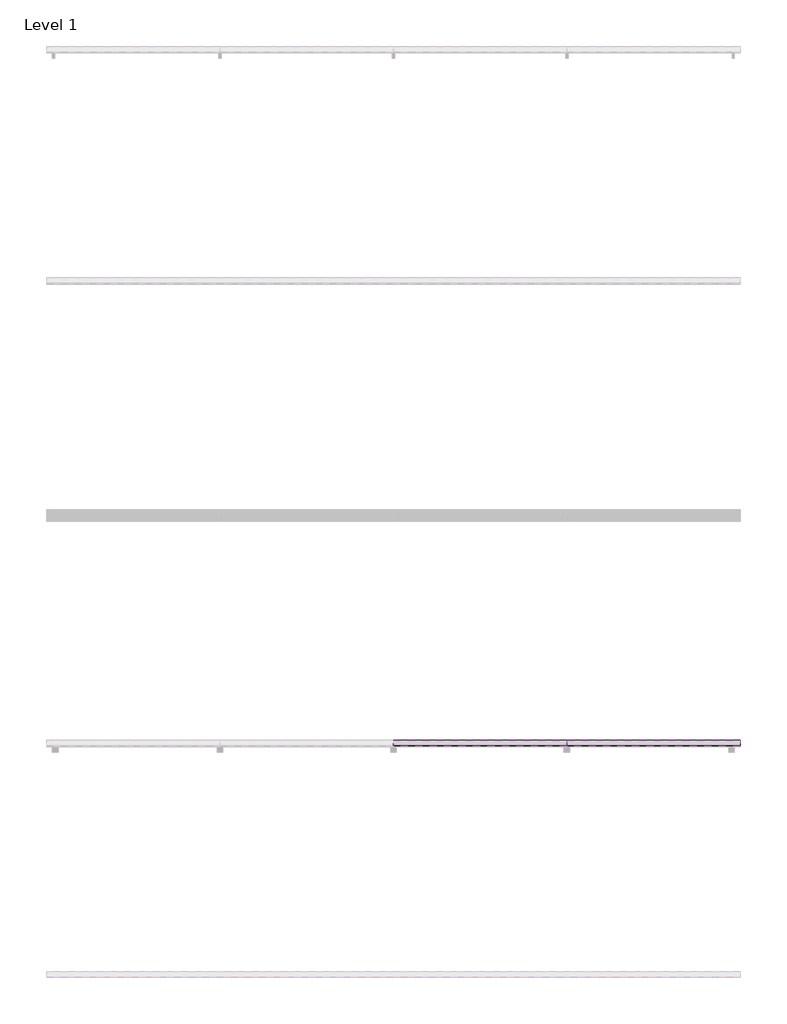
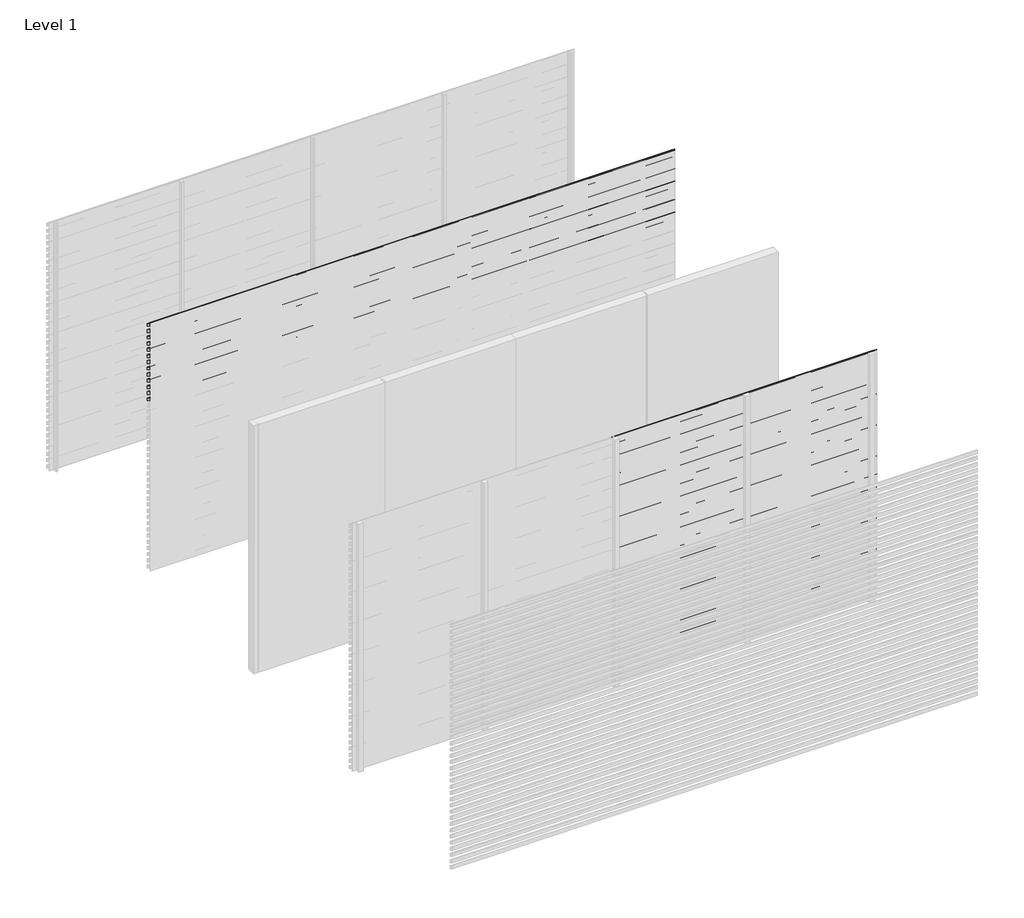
# One storey, part 5 of 9: 94 proxies.
"""IFC4 building model written with IfcOpenShell, lengths in millimetres."""

from ifc_helpers import new_model, si_unit, frame, origin, place, context, project, spatial, polyline, outline, extrude, element, save

model = new_model("IFC4")

# Units and contexts
model_context = context("Model", 3, world=origin())
ifc_project = project(units=[si_unit("LENGTHUNIT", "METRE", prefix="MILLI")], contexts=[model_context])

# Site, building, storey
site = spatial("IfcSite", under=ifc_project)
building = spatial("IfcBuilding", under=site)
storey = spatial("IfcBuildingStorey", under=building, Name="Level 1", Elevation=0.0)

# Proxies
placement = place(None, origin())
element("IfcBuildingElementProxy", 1, Name="Wall Sweeps", at=placement, inside=storey, context=model_context, shape_type="SweptSolid", body=[
    extrude(outline(polyline([(-7995.0, 3000.0), (-7995.0, 2991.2901632), (-7946.0, 2963.0), (-7946.0, 2928.0), (-7997.0, 2957.4448637), (-7997.0, 3000.0), (-7995.0, 3000.0)])), frame((0.0, 0.0, 0.0), z_axis=(1.0, 0.0, 0.0), x_axis=(0.0, 1.0, 0.0)), (0.0, 0.0, 1.0), 6000.0),
])
element("IfcBuildingElementProxy", 2, Name="Wall Sweeps", at=placement, inside=storey, context=model_context, shape_type="SweptSolid", body=[
    extrude(outline(polyline([(-7995.0, 2925.0), (-7995.0, 2916.2901632), (-7946.0, 2888.0), (-7946.0, 2853.0), (-7997.0, 2882.4448637), (-7997.0, 2925.0), (-7995.0, 2925.0)])), frame((0.0, 0.0, 0.0), z_axis=(1.0, 0.0, 0.0), x_axis=(0.0, 1.0, 0.0)), (0.0, 0.0, 1.0), 6000.0),
])
element("IfcBuildingElementProxy", 3, Name="Wall Sweeps", at=placement, inside=storey, context=model_context, shape_type="SweptSolid", body=[
    extrude(outline(polyline([(-7995.0, 2850.0), (-7995.0, 2841.2901632), (-7946.0, 2813.0), (-7946.0, 2778.0), (-7997.0, 2807.4448637), (-7997.0, 2850.0), (-7995.0, 2850.0)])), frame((0.0, 0.0, 0.0), z_axis=(1.0, 0.0, 0.0), x_axis=(0.0, 1.0, 0.0)), (0.0, 0.0, 1.0), 6000.0),
])
element("IfcBuildingElementProxy", 4, Name="Wall Sweeps", at=placement, inside=storey, context=model_context, shape_type="SweptSolid", body=[
    extrude(outline(polyline([(-7995.0, 2775.0), (-7995.0, 2766.2901632), (-7946.0, 2738.0), (-7946.0, 2703.0), (-7997.0, 2732.4448637), (-7997.0, 2775.0), (-7995.0, 2775.0)])), frame((0.0, 0.0, 0.0), z_axis=(1.0, 0.0, 0.0), x_axis=(0.0, 1.0, 0.0)), (0.0, 0.0, 1.0), 6000.0),
])
element("IfcBuildingElementProxy", 5, Name="Wall Sweeps", at=placement, inside=storey, context=model_context, shape_type="SweptSolid", body=[
    extrude(outline(polyline([(-7995.0, 2700.0), (-7995.0, 2691.2901632), (-7946.0, 2663.0), (-7946.0, 2628.0), (-7997.0, 2657.4448637), (-7997.0, 2700.0), (-7995.0, 2700.0)])), frame((0.0, 0.0, 0.0), z_axis=(1.0, 0.0, 0.0), x_axis=(0.0, 1.0, 0.0)), (0.0, 0.0, 1.0), 6000.0),
])
element("IfcBuildingElementProxy", 6, Name="Wall Sweeps", at=placement, inside=storey, context=model_context, shape_type="SweptSolid", body=[
    extrude(outline(polyline([(-7995.0, 2625.0), (-7995.0, 2616.2901632), (-7946.0, 2588.0), (-7946.0, 2553.0), (-7997.0, 2582.4448637), (-7997.0, 2625.0), (-7995.0, 2625.0)])), frame((0.0, 0.0, 0.0), z_axis=(1.0, 0.0, 0.0), x_axis=(0.0, 1.0, 0.0)), (0.0, 0.0, 1.0), 6000.0),
])
element("IfcBuildingElementProxy", 7, Name="Wall Sweeps", at=placement, inside=storey, context=model_context, shape_type="SweptSolid", body=[
    extrude(outline(polyline([(-7995.0, 2550.0), (-7995.0, 2541.2901632), (-7946.0, 2513.0), (-7946.0, 2478.0), (-7997.0, 2507.4448637), (-7997.0, 2550.0), (-7995.0, 2550.0)])), frame((0.0, 0.0, 0.0), z_axis=(1.0, 0.0, 0.0), x_axis=(0.0, 1.0, 0.0)), (0.0, 0.0, 1.0), 6000.0),
])
element("IfcBuildingElementProxy", 8, Name="Wall Sweeps", at=placement, inside=storey, context=model_context, shape_type="SweptSolid", body=[
    extrude(outline(polyline([(-7995.0, 2475.0), (-7995.0, 2466.2901632), (-7946.0, 2438.0), (-7946.0, 2403.0), (-7997.0, 2432.4448637), (-7997.0, 2475.0), (-7995.0, 2475.0)])), frame((0.0, 0.0, 0.0), z_axis=(1.0, 0.0, 0.0), x_axis=(0.0, 1.0, 0.0)), (0.0, 0.0, 1.0), 6000.0),
])
element("IfcBuildingElementProxy", 9, Name="Wall Sweeps", at=placement, inside=storey, context=model_context, shape_type="SweptSolid", body=[
    extrude(outline(polyline([(-7995.0, 2400.0), (-7995.0, 2391.2901632), (-7946.0, 2363.0), (-7946.0, 2328.0), (-7997.0, 2357.4448637), (-7997.0, 2400.0), (-7995.0, 2400.0)])), frame((0.0, 0.0, 0.0), z_axis=(1.0, 0.0, 0.0), x_axis=(0.0, 1.0, 0.0)), (0.0, 0.0, 1.0), 6000.0),
])
element("IfcBuildingElementProxy", 10, Name="Wall Sweeps", at=placement, inside=storey, context=model_context, shape_type="SweptSolid", body=[
    extrude(outline(polyline([(-7995.0, 2325.0), (-7995.0, 2316.2901632), (-7946.0, 2288.0), (-7946.0, 2253.0), (-7997.0, 2282.4448637), (-7997.0, 2325.0), (-7995.0, 2325.0)])), frame((0.0, 0.0, 0.0), z_axis=(1.0, 0.0, 0.0), x_axis=(0.0, 1.0, 0.0)), (0.0, 0.0, 1.0), 6000.0),
])
element("IfcBuildingElementProxy", 11, Name="Wall Sweeps", at=placement, inside=storey, context=model_context, shape_type="SweptSolid", body=[
    extrude(outline(polyline([(-7995.0, 2250.0), (-7995.0, 2241.2901632), (-7946.0, 2213.0), (-7946.0, 2178.0), (-7997.0, 2207.4448637), (-7997.0, 2250.0), (-7995.0, 2250.0)])), frame((0.0, 0.0, 0.0), z_axis=(1.0, 0.0, 0.0), x_axis=(0.0, 1.0, 0.0)), (0.0, 0.0, 1.0), 6000.0),
])
element("IfcBuildingElementProxy", 12, Name="Wall Sweeps", at=placement, inside=storey, context=model_context, shape_type="SweptSolid", body=[
    extrude(outline(polyline([(-7995.0, 2175.0), (-7995.0, 2166.2901632), (-7946.0, 2138.0), (-7946.0, 2103.0), (-7997.0, 2132.4448637), (-7997.0, 2175.0), (-7995.0, 2175.0)])), frame((0.0, 0.0, 0.0), z_axis=(1.0, 0.0, 0.0), x_axis=(0.0, 1.0, 0.0)), (0.0, 0.0, 1.0), 6000.0),
])
element("IfcBuildingElementProxy", 13, Name="Wall Sweeps", at=placement, inside=storey, context=model_context, shape_type="SweptSolid", body=[
    extrude(outline(polyline([(-7995.0, 2100.0), (-7995.0, 2091.2901632), (-7946.0, 2063.0), (-7946.0, 2028.0), (-7997.0, 2057.4448637), (-7997.0, 2100.0), (-7995.0, 2100.0)])), frame((0.0, 0.0, 0.0), z_axis=(1.0, 0.0, 0.0), x_axis=(0.0, 1.0, 0.0)), (0.0, 0.0, 1.0), 6000.0),
])
element("IfcBuildingElementProxy", 14, Name="Wall Sweeps", at=placement, inside=storey, context=model_context, shape_type="SweptSolid", body=[
    extrude(outline(polyline([(-11995.0, 75.0), (-11995.0, 66.2901632), (-11946.0, 38.0), (-11946.0, 3.0), (-11997.0, 32.4448637), (-11997.0, 75.0), (-11995.0, 75.0)])), frame((1500.0, 0.0, 0.0), z_axis=(1.0, 0.0, 0.0), x_axis=(0.0, 1.0, 0.0)), (0.0, 0.0, 1.0), 1500.0),
])
element("IfcBuildingElementProxy", 15, Name="Wall Sweeps", at=placement, inside=storey, context=model_context, shape_type="SweptSolid", body=[
    extrude(outline(polyline([(-11995.0, 3000.0), (-11995.0, 2991.2901632), (-11946.0, 2963.0), (-11946.0, 2928.0), (-11997.0, 2957.4448637), (-11997.0, 3000.0), (-11995.0, 3000.0)])), frame((3000.0, 0.0, 0.0), z_axis=(1.0, 0.0, 0.0), x_axis=(0.0, 1.0, 0.0)), (0.0, 0.0, 1.0), 1500.0),
])
element("IfcBuildingElementProxy", 16, Name="Wall Sweeps", at=placement, inside=storey, context=model_context, shape_type="SweptSolid", body=[
    extrude(outline(polyline([(-11995.0, 2925.0), (-11995.0, 2916.2901632), (-11946.0, 2888.0), (-11946.0, 2853.0), (-11997.0, 2882.4448637), (-11997.0, 2925.0), (-11995.0, 2925.0)])), frame((3000.0, 0.0, 0.0), z_axis=(1.0, 0.0, 0.0), x_axis=(0.0, 1.0, 0.0)), (0.0, 0.0, 1.0), 1500.0),
])
element("IfcBuildingElementProxy", 17, Name="Wall Sweeps", at=placement, inside=storey, context=model_context, shape_type="SweptSolid", body=[
    extrude(outline(polyline([(-11995.0, 2850.0), (-11995.0, 2841.2901632), (-11946.0, 2813.0), (-11946.0, 2778.0), (-11997.0, 2807.4448637), (-11997.0, 2850.0), (-11995.0, 2850.0)])), frame((3000.0, 0.0, 0.0), z_axis=(1.0, 0.0, 0.0), x_axis=(0.0, 1.0, 0.0)), (0.0, 0.0, 1.0), 1500.0),
])
element("IfcBuildingElementProxy", 18, Name="Wall Sweeps", at=placement, inside=storey, context=model_context, shape_type="SweptSolid", body=[
    extrude(outline(polyline([(-11995.0, 2775.0), (-11995.0, 2766.2901632), (-11946.0, 2738.0), (-11946.0, 2703.0), (-11997.0, 2732.4448637), (-11997.0, 2775.0), (-11995.0, 2775.0)])), frame((3000.0, 0.0, 0.0), z_axis=(1.0, 0.0, 0.0), x_axis=(0.0, 1.0, 0.0)), (0.0, 0.0, 1.0), 1500.0),
])
element("IfcBuildingElementProxy", 19, Name="Wall Sweeps", at=placement, inside=storey, context=model_context, shape_type="SweptSolid", body=[
    extrude(outline(polyline([(-11995.0, 2700.0), (-11995.0, 2691.2901632), (-11946.0, 2663.0), (-11946.0, 2628.0), (-11997.0, 2657.4448637), (-11997.0, 2700.0), (-11995.0, 2700.0)])), frame((3000.0, 0.0, 0.0), z_axis=(1.0, 0.0, 0.0), x_axis=(0.0, 1.0, 0.0)), (0.0, 0.0, 1.0), 1500.0),
])
element("IfcBuildingElementProxy", 20, Name="Wall Sweeps", at=placement, inside=storey, context=model_context, shape_type="SweptSolid", body=[
    extrude(outline(polyline([(-11995.0, 2625.0), (-11995.0, 2616.2901632), (-11946.0, 2588.0), (-11946.0, 2553.0), (-11997.0, 2582.4448637), (-11997.0, 2625.0), (-11995.0, 2625.0)])), frame((3000.0, 0.0, 0.0), z_axis=(1.0, 0.0, 0.0), x_axis=(0.0, 1.0, 0.0)), (0.0, 0.0, 1.0), 1500.0),
])
element("IfcBuildingElementProxy", 21, Name="Wall Sweeps", at=placement, inside=storey, context=model_context, shape_type="SweptSolid", body=[
    extrude(outline(polyline([(-11995.0, 2550.0), (-11995.0, 2541.2901632), (-11946.0, 2513.0), (-11946.0, 2478.0), (-11997.0, 2507.4448637), (-11997.0, 2550.0), (-11995.0, 2550.0)])), frame((3000.0, 0.0, 0.0), z_axis=(1.0, 0.0, 0.0), x_axis=(0.0, 1.0, 0.0)), (0.0, 0.0, 1.0), 1500.0),
])
element("IfcBuildingElementProxy", 22, Name="Wall Sweeps", at=placement, inside=storey, context=model_context, shape_type="SweptSolid", body=[
    extrude(outline(polyline([(-11995.0, 2475.0), (-11995.0, 2466.2901632), (-11946.0, 2438.0), (-11946.0, 2403.0), (-11997.0, 2432.4448637), (-11997.0, 2475.0), (-11995.0, 2475.0)])), frame((3000.0, 0.0, 0.0), z_axis=(1.0, 0.0, 0.0), x_axis=(0.0, 1.0, 0.0)), (0.0, 0.0, 1.0), 1500.0),
])
element("IfcBuildingElementProxy", 23, Name="Wall Sweeps", at=placement, inside=storey, context=model_context, shape_type="SweptSolid", body=[
    extrude(outline(polyline([(-11995.0, 2400.0), (-11995.0, 2391.2901632), (-11946.0, 2363.0), (-11946.0, 2328.0), (-11997.0, 2357.4448637), (-11997.0, 2400.0), (-11995.0, 2400.0)])), frame((3000.0, 0.0, 0.0), z_axis=(1.0, 0.0, 0.0), x_axis=(0.0, 1.0, 0.0)), (0.0, 0.0, 1.0), 1500.0),
])
element("IfcBuildingElementProxy", 24, Name="Wall Sweeps", at=placement, inside=storey, context=model_context, shape_type="SweptSolid", body=[
    extrude(outline(polyline([(-11995.0, 2325.0), (-11995.0, 2316.2901632), (-11946.0, 2288.0), (-11946.0, 2253.0), (-11997.0, 2282.4448637), (-11997.0, 2325.0), (-11995.0, 2325.0)])), frame((3000.0, 0.0, 0.0), z_axis=(1.0, 0.0, 0.0), x_axis=(0.0, 1.0, 0.0)), (0.0, 0.0, 1.0), 1500.0),
])
element("IfcBuildingElementProxy", 25, Name="Wall Sweeps", at=placement, inside=storey, context=model_context, shape_type="SweptSolid", body=[
    extrude(outline(polyline([(-11995.0, 2250.0), (-11995.0, 2241.2901632), (-11946.0, 2213.0), (-11946.0, 2178.0), (-11997.0, 2207.4448637), (-11997.0, 2250.0), (-11995.0, 2250.0)])), frame((3000.0, 0.0, 0.0), z_axis=(1.0, 0.0, 0.0), x_axis=(0.0, 1.0, 0.0)), (0.0, 0.0, 1.0), 1500.0),
])
element("IfcBuildingElementProxy", 26, Name="Wall Sweeps", at=placement, inside=storey, context=model_context, shape_type="SweptSolid", body=[
    extrude(outline(polyline([(-11995.0, 2175.0), (-11995.0, 2166.2901632), (-11946.0, 2138.0), (-11946.0, 2103.0), (-11997.0, 2132.4448637), (-11997.0, 2175.0), (-11995.0, 2175.0)])), frame((3000.0, 0.0, 0.0), z_axis=(1.0, 0.0, 0.0), x_axis=(0.0, 1.0, 0.0)), (0.0, 0.0, 1.0), 1500.0),
])
element("IfcBuildingElementProxy", 27, Name="Wall Sweeps", at=placement, inside=storey, context=model_context, shape_type="SweptSolid", body=[
    extrude(outline(polyline([(-11995.0, 2100.0), (-11995.0, 2091.2901632), (-11946.0, 2063.0), (-11946.0, 2028.0), (-11997.0, 2057.4448637), (-11997.0, 2100.0), (-11995.0, 2100.0)])), frame((3000.0, 0.0, 0.0), z_axis=(1.0, 0.0, 0.0), x_axis=(0.0, 1.0, 0.0)), (0.0, 0.0, 1.0), 1500.0),
])
element("IfcBuildingElementProxy", 28, Name="Wall Sweeps", at=placement, inside=storey, context=model_context, shape_type="SweptSolid", body=[
    extrude(outline(polyline([(-11995.0, 2025.0), (-11995.0, 2016.2901632), (-11946.0, 1988.0), (-11946.0, 1953.0), (-11997.0, 1982.4448637), (-11997.0, 2025.0), (-11995.0, 2025.0)])), frame((3000.0, 0.0, 0.0), z_axis=(1.0, 0.0, 0.0), x_axis=(0.0, 1.0, 0.0)), (0.0, 0.0, 1.0), 1500.0),
])
element("IfcBuildingElementProxy", 29, Name="Wall Sweeps", at=placement, inside=storey, context=model_context, shape_type="SweptSolid", body=[
    extrude(outline(polyline([(-11995.0, 1950.0), (-11995.0, 1941.2901632), (-11946.0, 1913.0), (-11946.0, 1878.0), (-11997.0, 1907.4448637), (-11997.0, 1950.0), (-11995.0, 1950.0)])), frame((3000.0, 0.0, 0.0), z_axis=(1.0, 0.0, 0.0), x_axis=(0.0, 1.0, 0.0)), (0.0, 0.0, 1.0), 1500.0),
])
element("IfcBuildingElementProxy", 30, Name="Wall Sweeps", at=placement, inside=storey, context=model_context, shape_type="SweptSolid", body=[
    extrude(outline(polyline([(-11995.0, 1875.0), (-11995.0, 1866.2901632), (-11946.0, 1838.0), (-11946.0, 1803.0), (-11997.0, 1832.4448637), (-11997.0, 1875.0), (-11995.0, 1875.0)])), frame((3000.0, 0.0, 0.0), z_axis=(1.0, 0.0, 0.0), x_axis=(0.0, 1.0, 0.0)), (0.0, 0.0, 1.0), 1500.0),
])
element("IfcBuildingElementProxy", 31, Name="Wall Sweeps", at=placement, inside=storey, context=model_context, shape_type="SweptSolid", body=[
    extrude(outline(polyline([(-11995.0, 1800.0), (-11995.0, 1791.2901632), (-11946.0, 1763.0), (-11946.0, 1728.0), (-11997.0, 1757.4448637), (-11997.0, 1800.0), (-11995.0, 1800.0)])), frame((3000.0, 0.0, 0.0), z_axis=(1.0, 0.0, 0.0), x_axis=(0.0, 1.0, 0.0)), (0.0, 0.0, 1.0), 1500.0),
])
element("IfcBuildingElementProxy", 32, Name="Wall Sweeps", at=placement, inside=storey, context=model_context, shape_type="SweptSolid", body=[
    extrude(outline(polyline([(-11995.0, 1725.0), (-11995.0, 1716.2901632), (-11946.0, 1688.0), (-11946.0, 1653.0), (-11997.0, 1682.4448637), (-11997.0, 1725.0), (-11995.0, 1725.0)])), frame((3000.0, 0.0, 0.0), z_axis=(1.0, 0.0, 0.0), x_axis=(0.0, 1.0, 0.0)), (0.0, 0.0, 1.0), 1500.0),
])
element("IfcBuildingElementProxy", 33, Name="Wall Sweeps", at=placement, inside=storey, context=model_context, shape_type="SweptSolid", body=[
    extrude(outline(polyline([(-11995.0, 1650.0), (-11995.0, 1641.2901632), (-11946.0, 1613.0), (-11946.0, 1578.0), (-11997.0, 1607.4448637), (-11997.0, 1650.0), (-11995.0, 1650.0)])), frame((3000.0, 0.0, 0.0), z_axis=(1.0, 0.0, 0.0), x_axis=(0.0, 1.0, 0.0)), (0.0, 0.0, 1.0), 1500.0),
])
element("IfcBuildingElementProxy", 34, Name="Wall Sweeps", at=placement, inside=storey, context=model_context, shape_type="SweptSolid", body=[
    extrude(outline(polyline([(-11995.0, 1575.0), (-11995.0, 1566.2901632), (-11946.0, 1538.0), (-11946.0, 1503.0), (-11997.0, 1532.4448637), (-11997.0, 1575.0), (-11995.0, 1575.0)])), frame((3000.0, 0.0, 0.0), z_axis=(1.0, 0.0, 0.0), x_axis=(0.0, 1.0, 0.0)), (0.0, 0.0, 1.0), 1500.0),
])
element("IfcBuildingElementProxy", 35, Name="Wall Sweeps", at=placement, inside=storey, context=model_context, shape_type="SweptSolid", body=[
    extrude(outline(polyline([(-11995.0, 1500.0), (-11995.0, 1491.2901632), (-11946.0, 1463.0), (-11946.0, 1428.0), (-11997.0, 1457.4448637), (-11997.0, 1500.0), (-11995.0, 1500.0)])), frame((3000.0, 0.0, 0.0), z_axis=(1.0, 0.0, 0.0), x_axis=(0.0, 1.0, 0.0)), (0.0, 0.0, 1.0), 1500.0),
])
element("IfcBuildingElementProxy", 36, Name="Wall Sweeps", at=placement, inside=storey, context=model_context, shape_type="SweptSolid", body=[
    extrude(outline(polyline([(-11995.0, 1425.0), (-11995.0, 1416.2901632), (-11946.0, 1388.0), (-11946.0, 1353.0), (-11997.0, 1382.4448637), (-11997.0, 1425.0), (-11995.0, 1425.0)])), frame((3000.0, 0.0, 0.0), z_axis=(1.0, 0.0, 0.0), x_axis=(0.0, 1.0, 0.0)), (0.0, 0.0, 1.0), 1500.0),
])
element("IfcBuildingElementProxy", 37, Name="Wall Sweeps", at=placement, inside=storey, context=model_context, shape_type="SweptSolid", body=[
    extrude(outline(polyline([(-11995.0, 1350.0), (-11995.0, 1341.2901632), (-11946.0, 1313.0), (-11946.0, 1278.0), (-11997.0, 1307.4448637), (-11997.0, 1350.0), (-11995.0, 1350.0)])), frame((3000.0, 0.0, 0.0), z_axis=(1.0, 0.0, 0.0), x_axis=(0.0, 1.0, 0.0)), (0.0, 0.0, 1.0), 1500.0),
])
element("IfcBuildingElementProxy", 38, Name="Wall Sweeps", at=placement, inside=storey, context=model_context, shape_type="SweptSolid", body=[
    extrude(outline(polyline([(-11995.0, 1275.0), (-11995.0, 1266.2901632), (-11946.0, 1238.0), (-11946.0, 1203.0), (-11997.0, 1232.4448637), (-11997.0, 1275.0), (-11995.0, 1275.0)])), frame((3000.0, 0.0, 0.0), z_axis=(1.0, 0.0, 0.0), x_axis=(0.0, 1.0, 0.0)), (0.0, 0.0, 1.0), 1500.0),
])
element("IfcBuildingElementProxy", 39, Name="Wall Sweeps", at=placement, inside=storey, context=model_context, shape_type="SweptSolid", body=[
    extrude(outline(polyline([(-11995.0, 1200.0), (-11995.0, 1191.2901632), (-11946.0, 1163.0), (-11946.0, 1128.0), (-11997.0, 1157.4448637), (-11997.0, 1200.0), (-11995.0, 1200.0)])), frame((3000.0, 0.0, 0.0), z_axis=(1.0, 0.0, 0.0), x_axis=(0.0, 1.0, 0.0)), (0.0, 0.0, 1.0), 1500.0),
])
element("IfcBuildingElementProxy", 40, Name="Wall Sweeps", at=placement, inside=storey, context=model_context, shape_type="SweptSolid", body=[
    extrude(outline(polyline([(-11995.0, 1125.0), (-11995.0, 1116.2901632), (-11946.0, 1088.0), (-11946.0, 1053.0), (-11997.0, 1082.4448637), (-11997.0, 1125.0), (-11995.0, 1125.0)])), frame((3000.0, 0.0, 0.0), z_axis=(1.0, 0.0, 0.0), x_axis=(0.0, 1.0, 0.0)), (0.0, 0.0, 1.0), 1500.0),
])
element("IfcBuildingElementProxy", 41, Name="Wall Sweeps", at=placement, inside=storey, context=model_context, shape_type="SweptSolid", body=[
    extrude(outline(polyline([(-11995.0, 1050.0), (-11995.0, 1041.2901632), (-11946.0, 1013.0), (-11946.0, 978.0), (-11997.0, 1007.4448637), (-11997.0, 1050.0), (-11995.0, 1050.0)])), frame((3000.0, 0.0, 0.0), z_axis=(1.0, 0.0, 0.0), x_axis=(0.0, 1.0, 0.0)), (0.0, 0.0, 1.0), 1500.0),
])
element("IfcBuildingElementProxy", 42, Name="Wall Sweeps", at=placement, inside=storey, context=model_context, shape_type="SweptSolid", body=[
    extrude(outline(polyline([(-11995.0, 975.0), (-11995.0, 966.2901632), (-11946.0, 938.0), (-11946.0, 903.0), (-11997.0, 932.4448637), (-11997.0, 975.0), (-11995.0, 975.0)])), frame((3000.0, 0.0, 0.0), z_axis=(1.0, 0.0, 0.0), x_axis=(0.0, 1.0, 0.0)), (0.0, 0.0, 1.0), 1500.0),
])
element("IfcBuildingElementProxy", 43, Name="Wall Sweeps", at=placement, inside=storey, context=model_context, shape_type="SweptSolid", body=[
    extrude(outline(polyline([(-11995.0, 900.0), (-11995.0, 891.2901632), (-11946.0, 863.0), (-11946.0, 828.0), (-11997.0, 857.4448637), (-11997.0, 900.0), (-11995.0, 900.0)])), frame((3000.0, 0.0, 0.0), z_axis=(1.0, 0.0, 0.0), x_axis=(0.0, 1.0, 0.0)), (0.0, 0.0, 1.0), 1500.0),
])
element("IfcBuildingElementProxy", 44, Name="Wall Sweeps", at=placement, inside=storey, context=model_context, shape_type="SweptSolid", body=[
    extrude(outline(polyline([(-11995.0, 825.0), (-11995.0, 816.2901632), (-11946.0, 788.0), (-11946.0, 753.0), (-11997.0, 782.4448637), (-11997.0, 825.0), (-11995.0, 825.0)])), frame((3000.0, 0.0, 0.0), z_axis=(1.0, 0.0, 0.0), x_axis=(0.0, 1.0, 0.0)), (0.0, 0.0, 1.0), 1500.0),
])
element("IfcBuildingElementProxy", 45, Name="Wall Sweeps", at=placement, inside=storey, context=model_context, shape_type="SweptSolid", body=[
    extrude(outline(polyline([(-11995.0, 750.0), (-11995.0, 741.2901632), (-11946.0, 713.0), (-11946.0, 678.0), (-11997.0, 707.4448637), (-11997.0, 750.0), (-11995.0, 750.0)])), frame((3000.0, 0.0, 0.0), z_axis=(1.0, 0.0, 0.0), x_axis=(0.0, 1.0, 0.0)), (0.0, 0.0, 1.0), 1500.0),
])
element("IfcBuildingElementProxy", 46, Name="Wall Sweeps", at=placement, inside=storey, context=model_context, shape_type="SweptSolid", body=[
    extrude(outline(polyline([(-11995.0, 675.0), (-11995.0, 666.2901632), (-11946.0, 638.0), (-11946.0, 603.0), (-11997.0, 632.4448637), (-11997.0, 675.0), (-11995.0, 675.0)])), frame((3000.0, 0.0, 0.0), z_axis=(1.0, 0.0, 0.0), x_axis=(0.0, 1.0, 0.0)), (0.0, 0.0, 1.0), 1500.0),
])
element("IfcBuildingElementProxy", 47, Name="Wall Sweeps", at=placement, inside=storey, context=model_context, shape_type="SweptSolid", body=[
    extrude(outline(polyline([(-11995.0, 600.0), (-11995.0, 591.2901632), (-11946.0, 563.0), (-11946.0, 528.0), (-11997.0, 557.4448637), (-11997.0, 600.0), (-11995.0, 600.0)])), frame((3000.0, 0.0, 0.0), z_axis=(1.0, 0.0, 0.0), x_axis=(0.0, 1.0, 0.0)), (0.0, 0.0, 1.0), 1500.0),
])
element("IfcBuildingElementProxy", 48, Name="Wall Sweeps", at=placement, inside=storey, context=model_context, shape_type="SweptSolid", body=[
    extrude(outline(polyline([(-11995.0, 525.0), (-11995.0, 516.2901632), (-11946.0, 488.0), (-11946.0, 453.0), (-11997.0, 482.4448637), (-11997.0, 525.0), (-11995.0, 525.0)])), frame((3000.0, 0.0, 0.0), z_axis=(1.0, 0.0, 0.0), x_axis=(0.0, 1.0, 0.0)), (0.0, 0.0, 1.0), 1500.0),
])
element("IfcBuildingElementProxy", 49, Name="Wall Sweeps", at=placement, inside=storey, context=model_context, shape_type="SweptSolid", body=[
    extrude(outline(polyline([(-11995.0, 450.0), (-11995.0, 441.2901632), (-11946.0, 413.0), (-11946.0, 378.0), (-11997.0, 407.4448637), (-11997.0, 450.0), (-11995.0, 450.0)])), frame((3000.0, 0.0, 0.0), z_axis=(1.0, 0.0, 0.0), x_axis=(0.0, 1.0, 0.0)), (0.0, 0.0, 1.0), 1500.0),
])
element("IfcBuildingElementProxy", 50, Name="Wall Sweeps", at=placement, inside=storey, context=model_context, shape_type="SweptSolid", body=[
    extrude(outline(polyline([(-11995.0, 375.0), (-11995.0, 366.2901632), (-11946.0, 338.0), (-11946.0, 303.0), (-11997.0, 332.4448637), (-11997.0, 375.0), (-11995.0, 375.0)])), frame((3000.0, 0.0, 0.0), z_axis=(1.0, 0.0, 0.0), x_axis=(0.0, 1.0, 0.0)), (0.0, 0.0, 1.0), 1500.0),
])
element("IfcBuildingElementProxy", 51, Name="Wall Sweeps", at=placement, inside=storey, context=model_context, shape_type="SweptSolid", body=[
    extrude(outline(polyline([(-11995.0, 300.0), (-11995.0, 291.2901632), (-11946.0, 263.0), (-11946.0, 228.0), (-11997.0, 257.4448637), (-11997.0, 300.0), (-11995.0, 300.0)])), frame((3000.0, 0.0, 0.0), z_axis=(1.0, 0.0, 0.0), x_axis=(0.0, 1.0, 0.0)), (0.0, 0.0, 1.0), 1500.0),
])
element("IfcBuildingElementProxy", 52, Name="Wall Sweeps", at=placement, inside=storey, context=model_context, shape_type="SweptSolid", body=[
    extrude(outline(polyline([(-11995.0, 225.0), (-11995.0, 216.2901632), (-11946.0, 188.0), (-11946.0, 153.0), (-11997.0, 182.4448637), (-11997.0, 225.0), (-11995.0, 225.0)])), frame((3000.0, 0.0, 0.0), z_axis=(1.0, 0.0, 0.0), x_axis=(0.0, 1.0, 0.0)), (0.0, 0.0, 1.0), 1500.0),
])
element("IfcBuildingElementProxy", 53, Name="Wall Sweeps", at=placement, inside=storey, context=model_context, shape_type="SweptSolid", body=[
    extrude(outline(polyline([(-11995.0, 150.0), (-11995.0, 141.2901632), (-11946.0, 113.0), (-11946.0, 78.0), (-11997.0, 107.4448637), (-11997.0, 150.0), (-11995.0, 150.0)])), frame((3000.0, 0.0, 0.0), z_axis=(1.0, 0.0, 0.0), x_axis=(0.0, 1.0, 0.0)), (0.0, 0.0, 1.0), 1500.0),
])
element("IfcBuildingElementProxy", 54, Name="Wall Sweeps", at=placement, inside=storey, context=model_context, shape_type="SweptSolid", body=[
    extrude(outline(polyline([(-11995.0, 75.0), (-11995.0, 66.2901632), (-11946.0, 38.0), (-11946.0, 3.0), (-11997.0, 32.4448637), (-11997.0, 75.0), (-11995.0, 75.0)])), frame((3000.0, 0.0, 0.0), z_axis=(1.0, 0.0, 0.0), x_axis=(0.0, 1.0, 0.0)), (0.0, 0.0, 1.0), 1500.0),
])
element("IfcBuildingElementProxy", 55, Name="Wall Sweeps", at=placement, inside=storey, context=model_context, shape_type="SweptSolid", body=[
    extrude(outline(polyline([(-11995.0, 3000.0), (-11995.0, 2991.2901632), (-11946.0, 2963.0), (-11946.0, 2928.0), (-11997.0, 2957.4448637), (-11997.0, 3000.0), (-11995.0, 3000.0)])), frame((4500.0, 0.0, 0.0), z_axis=(1.0, 0.0, 0.0), x_axis=(0.0, 1.0, 0.0)), (0.0, 0.0, 1.0), 1500.0),
])
element("IfcBuildingElementProxy", 56, Name="Wall Sweeps", at=placement, inside=storey, context=model_context, shape_type="SweptSolid", body=[
    extrude(outline(polyline([(-11995.0, 2925.0), (-11995.0, 2916.2901632), (-11946.0, 2888.0), (-11946.0, 2853.0), (-11997.0, 2882.4448637), (-11997.0, 2925.0), (-11995.0, 2925.0)])), frame((4500.0, 0.0, 0.0), z_axis=(1.0, 0.0, 0.0), x_axis=(0.0, 1.0, 0.0)), (0.0, 0.0, 1.0), 1500.0),
])
element("IfcBuildingElementProxy", 57, Name="Wall Sweeps", at=placement, inside=storey, context=model_context, shape_type="SweptSolid", body=[
    extrude(outline(polyline([(-11995.0, 2850.0), (-11995.0, 2841.2901632), (-11946.0, 2813.0), (-11946.0, 2778.0), (-11997.0, 2807.4448637), (-11997.0, 2850.0), (-11995.0, 2850.0)])), frame((4500.0, 0.0, 0.0), z_axis=(1.0, 0.0, 0.0), x_axis=(0.0, 1.0, 0.0)), (0.0, 0.0, 1.0), 1500.0),
])
element("IfcBuildingElementProxy", 58, Name="Wall Sweeps", at=placement, inside=storey, context=model_context, shape_type="SweptSolid", body=[
    extrude(outline(polyline([(-11995.0, 2775.0), (-11995.0, 2766.2901632), (-11946.0, 2738.0), (-11946.0, 2703.0), (-11997.0, 2732.4448637), (-11997.0, 2775.0), (-11995.0, 2775.0)])), frame((4500.0, 0.0, 0.0), z_axis=(1.0, 0.0, 0.0), x_axis=(0.0, 1.0, 0.0)), (0.0, 0.0, 1.0), 1500.0),
])
element("IfcBuildingElementProxy", 59, Name="Wall Sweeps", at=placement, inside=storey, context=model_context, shape_type="SweptSolid", body=[
    extrude(outline(polyline([(-11995.0, 2700.0), (-11995.0, 2691.2901632), (-11946.0, 2663.0), (-11946.0, 2628.0), (-11997.0, 2657.4448637), (-11997.0, 2700.0), (-11995.0, 2700.0)])), frame((4500.0, 0.0, 0.0), z_axis=(1.0, 0.0, 0.0), x_axis=(0.0, 1.0, 0.0)), (0.0, 0.0, 1.0), 1500.0),
])
element("IfcBuildingElementProxy", 60, Name="Wall Sweeps", at=placement, inside=storey, context=model_context, shape_type="SweptSolid", body=[
    extrude(outline(polyline([(-11995.0, 2625.0), (-11995.0, 2616.2901632), (-11946.0, 2588.0), (-11946.0, 2553.0), (-11997.0, 2582.4448637), (-11997.0, 2625.0), (-11995.0, 2625.0)])), frame((4500.0, 0.0, 0.0), z_axis=(1.0, 0.0, 0.0), x_axis=(0.0, 1.0, 0.0)), (0.0, 0.0, 1.0), 1500.0),
])
element("IfcBuildingElementProxy", 61, Name="Wall Sweeps", at=placement, inside=storey, context=model_context, shape_type="SweptSolid", body=[
    extrude(outline(polyline([(-11995.0, 2550.0), (-11995.0, 2541.2901632), (-11946.0, 2513.0), (-11946.0, 2478.0), (-11997.0, 2507.4448637), (-11997.0, 2550.0), (-11995.0, 2550.0)])), frame((4500.0, 0.0, 0.0), z_axis=(1.0, 0.0, 0.0), x_axis=(0.0, 1.0, 0.0)), (0.0, 0.0, 1.0), 1500.0),
])
element("IfcBuildingElementProxy", 62, Name="Wall Sweeps", at=placement, inside=storey, context=model_context, shape_type="SweptSolid", body=[
    extrude(outline(polyline([(-11995.0, 2475.0), (-11995.0, 2466.2901632), (-11946.0, 2438.0), (-11946.0, 2403.0), (-11997.0, 2432.4448637), (-11997.0, 2475.0), (-11995.0, 2475.0)])), frame((4500.0, 0.0, 0.0), z_axis=(1.0, 0.0, 0.0), x_axis=(0.0, 1.0, 0.0)), (0.0, 0.0, 1.0), 1500.0),
])
element("IfcBuildingElementProxy", 63, Name="Wall Sweeps", at=placement, inside=storey, context=model_context, shape_type="SweptSolid", body=[
    extrude(outline(polyline([(-11995.0, 2400.0), (-11995.0, 2391.2901632), (-11946.0, 2363.0), (-11946.0, 2328.0), (-11997.0, 2357.4448637), (-11997.0, 2400.0), (-11995.0, 2400.0)])), frame((4500.0, 0.0, 0.0), z_axis=(1.0, 0.0, 0.0), x_axis=(0.0, 1.0, 0.0)), (0.0, 0.0, 1.0), 1500.0),
])
element("IfcBuildingElementProxy", 64, Name="Wall Sweeps", at=placement, inside=storey, context=model_context, shape_type="SweptSolid", body=[
    extrude(outline(polyline([(-11995.0, 2325.0), (-11995.0, 2316.2901632), (-11946.0, 2288.0), (-11946.0, 2253.0), (-11997.0, 2282.4448637), (-11997.0, 2325.0), (-11995.0, 2325.0)])), frame((4500.0, 0.0, 0.0), z_axis=(1.0, 0.0, 0.0), x_axis=(0.0, 1.0, 0.0)), (0.0, 0.0, 1.0), 1500.0),
])
element("IfcBuildingElementProxy", 65, Name="Wall Sweeps", at=placement, inside=storey, context=model_context, shape_type="SweptSolid", body=[
    extrude(outline(polyline([(-11995.0, 2250.0), (-11995.0, 2241.2901632), (-11946.0, 2213.0), (-11946.0, 2178.0), (-11997.0, 2207.4448637), (-11997.0, 2250.0), (-11995.0, 2250.0)])), frame((4500.0, 0.0, 0.0), z_axis=(1.0, 0.0, 0.0), x_axis=(0.0, 1.0, 0.0)), (0.0, 0.0, 1.0), 1500.0),
])
element("IfcBuildingElementProxy", 66, Name="Wall Sweeps", at=placement, inside=storey, context=model_context, shape_type="SweptSolid", body=[
    extrude(outline(polyline([(-11995.0, 2175.0), (-11995.0, 2166.2901632), (-11946.0, 2138.0), (-11946.0, 2103.0), (-11997.0, 2132.4448637), (-11997.0, 2175.0), (-11995.0, 2175.0)])), frame((4500.0, 0.0, 0.0), z_axis=(1.0, 0.0, 0.0), x_axis=(0.0, 1.0, 0.0)), (0.0, 0.0, 1.0), 1500.0),
])
element("IfcBuildingElementProxy", 67, Name="Wall Sweeps", at=placement, inside=storey, context=model_context, shape_type="SweptSolid", body=[
    extrude(outline(polyline([(-11995.0, 2100.0), (-11995.0, 2091.2901632), (-11946.0, 2063.0), (-11946.0, 2028.0), (-11997.0, 2057.4448637), (-11997.0, 2100.0), (-11995.0, 2100.0)])), frame((4500.0, 0.0, 0.0), z_axis=(1.0, 0.0, 0.0), x_axis=(0.0, 1.0, 0.0)), (0.0, 0.0, 1.0), 1500.0),
])
element("IfcBuildingElementProxy", 68, Name="Wall Sweeps", at=placement, inside=storey, context=model_context, shape_type="SweptSolid", body=[
    extrude(outline(polyline([(-11995.0, 2025.0), (-11995.0, 2016.2901632), (-11946.0, 1988.0), (-11946.0, 1953.0), (-11997.0, 1982.4448637), (-11997.0, 2025.0), (-11995.0, 2025.0)])), frame((4500.0, 0.0, 0.0), z_axis=(1.0, 0.0, 0.0), x_axis=(0.0, 1.0, 0.0)), (0.0, 0.0, 1.0), 1500.0),
])
element("IfcBuildingElementProxy", 69, Name="Wall Sweeps", at=placement, inside=storey, context=model_context, shape_type="SweptSolid", body=[
    extrude(outline(polyline([(-11995.0, 1950.0), (-11995.0, 1941.2901632), (-11946.0, 1913.0), (-11946.0, 1878.0), (-11997.0, 1907.4448637), (-11997.0, 1950.0), (-11995.0, 1950.0)])), frame((4500.0, 0.0, 0.0), z_axis=(1.0, 0.0, 0.0), x_axis=(0.0, 1.0, 0.0)), (0.0, 0.0, 1.0), 1500.0),
])
element("IfcBuildingElementProxy", 70, Name="Wall Sweeps", at=placement, inside=storey, context=model_context, shape_type="SweptSolid", body=[
    extrude(outline(polyline([(-11995.0, 1875.0), (-11995.0, 1866.2901632), (-11946.0, 1838.0), (-11946.0, 1803.0), (-11997.0, 1832.4448637), (-11997.0, 1875.0), (-11995.0, 1875.0)])), frame((4500.0, 0.0, 0.0), z_axis=(1.0, 0.0, 0.0), x_axis=(0.0, 1.0, 0.0)), (0.0, 0.0, 1.0), 1500.0),
])
element("IfcBuildingElementProxy", 71, Name="Wall Sweeps", at=placement, inside=storey, context=model_context, shape_type="SweptSolid", body=[
    extrude(outline(polyline([(-11995.0, 1800.0), (-11995.0, 1791.2901632), (-11946.0, 1763.0), (-11946.0, 1728.0), (-11997.0, 1757.4448637), (-11997.0, 1800.0), (-11995.0, 1800.0)])), frame((4500.0, 0.0, 0.0), z_axis=(1.0, 0.0, 0.0), x_axis=(0.0, 1.0, 0.0)), (0.0, 0.0, 1.0), 1500.0),
])
element("IfcBuildingElementProxy", 72, Name="Wall Sweeps", at=placement, inside=storey, context=model_context, shape_type="SweptSolid", body=[
    extrude(outline(polyline([(-11995.0, 1725.0), (-11995.0, 1716.2901632), (-11946.0, 1688.0), (-11946.0, 1653.0), (-11997.0, 1682.4448637), (-11997.0, 1725.0), (-11995.0, 1725.0)])), frame((4500.0, 0.0, 0.0), z_axis=(1.0, 0.0, 0.0), x_axis=(0.0, 1.0, 0.0)), (0.0, 0.0, 1.0), 1500.0),
])
element("IfcBuildingElementProxy", 73, Name="Wall Sweeps", at=placement, inside=storey, context=model_context, shape_type="SweptSolid", body=[
    extrude(outline(polyline([(-11995.0, 1650.0), (-11995.0, 1641.2901632), (-11946.0, 1613.0), (-11946.0, 1578.0), (-11997.0, 1607.4448637), (-11997.0, 1650.0), (-11995.0, 1650.0)])), frame((4500.0, 0.0, 0.0), z_axis=(1.0, 0.0, 0.0), x_axis=(0.0, 1.0, 0.0)), (0.0, 0.0, 1.0), 1500.0),
])
element("IfcBuildingElementProxy", 74, Name="Wall Sweeps", at=placement, inside=storey, context=model_context, shape_type="SweptSolid", body=[
    extrude(outline(polyline([(-11995.0, 1575.0), (-11995.0, 1566.2901632), (-11946.0, 1538.0), (-11946.0, 1503.0), (-11997.0, 1532.4448637), (-11997.0, 1575.0), (-11995.0, 1575.0)])), frame((4500.0, 0.0, 0.0), z_axis=(1.0, 0.0, 0.0), x_axis=(0.0, 1.0, 0.0)), (0.0, 0.0, 1.0), 1500.0),
])
element("IfcBuildingElementProxy", 75, Name="Wall Sweeps", at=placement, inside=storey, context=model_context, shape_type="SweptSolid", body=[
    extrude(outline(polyline([(-11995.0, 1500.0), (-11995.0, 1491.2901632), (-11946.0, 1463.0), (-11946.0, 1428.0), (-11997.0, 1457.4448637), (-11997.0, 1500.0), (-11995.0, 1500.0)])), frame((4500.0, 0.0, 0.0), z_axis=(1.0, 0.0, 0.0), x_axis=(0.0, 1.0, 0.0)), (0.0, 0.0, 1.0), 1500.0),
])
element("IfcBuildingElementProxy", 76, Name="Wall Sweeps", at=placement, inside=storey, context=model_context, shape_type="SweptSolid", body=[
    extrude(outline(polyline([(-11995.0, 1425.0), (-11995.0, 1416.2901632), (-11946.0, 1388.0), (-11946.0, 1353.0), (-11997.0, 1382.4448637), (-11997.0, 1425.0), (-11995.0, 1425.0)])), frame((4500.0, 0.0, 0.0), z_axis=(1.0, 0.0, 0.0), x_axis=(0.0, 1.0, 0.0)), (0.0, 0.0, 1.0), 1500.0),
])
element("IfcBuildingElementProxy", 77, Name="Wall Sweeps", at=placement, inside=storey, context=model_context, shape_type="SweptSolid", body=[
    extrude(outline(polyline([(-11995.0, 1350.0), (-11995.0, 1341.2901632), (-11946.0, 1313.0), (-11946.0, 1278.0), (-11997.0, 1307.4448637), (-11997.0, 1350.0), (-11995.0, 1350.0)])), frame((4500.0, 0.0, 0.0), z_axis=(1.0, 0.0, 0.0), x_axis=(0.0, 1.0, 0.0)), (0.0, 0.0, 1.0), 1500.0),
])
element("IfcBuildingElementProxy", 78, Name="Wall Sweeps", at=placement, inside=storey, context=model_context, shape_type="SweptSolid", body=[
    extrude(outline(polyline([(-11995.0, 1275.0), (-11995.0, 1266.2901632), (-11946.0, 1238.0), (-11946.0, 1203.0), (-11997.0, 1232.4448637), (-11997.0, 1275.0), (-11995.0, 1275.0)])), frame((4500.0, 0.0, 0.0), z_axis=(1.0, 0.0, 0.0), x_axis=(0.0, 1.0, 0.0)), (0.0, 0.0, 1.0), 1500.0),
])
element("IfcBuildingElementProxy", 79, Name="Wall Sweeps", at=placement, inside=storey, context=model_context, shape_type="SweptSolid", body=[
    extrude(outline(polyline([(-11995.0, 1200.0), (-11995.0, 1191.2901632), (-11946.0, 1163.0), (-11946.0, 1128.0), (-11997.0, 1157.4448637), (-11997.0, 1200.0), (-11995.0, 1200.0)])), frame((4500.0, 0.0, 0.0), z_axis=(1.0, 0.0, 0.0), x_axis=(0.0, 1.0, 0.0)), (0.0, 0.0, 1.0), 1500.0),
])
element("IfcBuildingElementProxy", 80, Name="Wall Sweeps", at=placement, inside=storey, context=model_context, shape_type="SweptSolid", body=[
    extrude(outline(polyline([(-11995.0, 1125.0), (-11995.0, 1116.2901632), (-11946.0, 1088.0), (-11946.0, 1053.0), (-11997.0, 1082.4448637), (-11997.0, 1125.0), (-11995.0, 1125.0)])), frame((4500.0, 0.0, 0.0), z_axis=(1.0, 0.0, 0.0), x_axis=(0.0, 1.0, 0.0)), (0.0, 0.0, 1.0), 1500.0),
])
element("IfcBuildingElementProxy", 81, Name="Wall Sweeps", at=placement, inside=storey, context=model_context, shape_type="SweptSolid", body=[
    extrude(outline(polyline([(-11995.0, 1050.0), (-11995.0, 1041.2901632), (-11946.0, 1013.0), (-11946.0, 978.0), (-11997.0, 1007.4448637), (-11997.0, 1050.0), (-11995.0, 1050.0)])), frame((4500.0, 0.0, 0.0), z_axis=(1.0, 0.0, 0.0), x_axis=(0.0, 1.0, 0.0)), (0.0, 0.0, 1.0), 1500.0),
])
element("IfcBuildingElementProxy", 82, Name="Wall Sweeps", at=placement, inside=storey, context=model_context, shape_type="SweptSolid", body=[
    extrude(outline(polyline([(-11995.0, 975.0), (-11995.0, 966.2901632), (-11946.0, 938.0), (-11946.0, 903.0), (-11997.0, 932.4448637), (-11997.0, 975.0), (-11995.0, 975.0)])), frame((4500.0, 0.0, 0.0), z_axis=(1.0, 0.0, 0.0), x_axis=(0.0, 1.0, 0.0)), (0.0, 0.0, 1.0), 1500.0),
])
element("IfcBuildingElementProxy", 83, Name="Wall Sweeps", at=placement, inside=storey, context=model_context, shape_type="SweptSolid", body=[
    extrude(outline(polyline([(-11995.0, 900.0), (-11995.0, 891.2901632), (-11946.0, 863.0), (-11946.0, 828.0), (-11997.0, 857.4448637), (-11997.0, 900.0), (-11995.0, 900.0)])), frame((4500.0, 0.0, 0.0), z_axis=(1.0, 0.0, 0.0), x_axis=(0.0, 1.0, 0.0)), (0.0, 0.0, 1.0), 1500.0),
])
element("IfcBuildingElementProxy", 84, Name="Wall Sweeps", at=placement, inside=storey, context=model_context, shape_type="SweptSolid", body=[
    extrude(outline(polyline([(-11995.0, 825.0), (-11995.0, 816.2901632), (-11946.0, 788.0), (-11946.0, 753.0), (-11997.0, 782.4448637), (-11997.0, 825.0), (-11995.0, 825.0)])), frame((4500.0, 0.0, 0.0), z_axis=(1.0, 0.0, 0.0), x_axis=(0.0, 1.0, 0.0)), (0.0, 0.0, 1.0), 1500.0),
])
element("IfcBuildingElementProxy", 85, Name="Wall Sweeps", at=placement, inside=storey, context=model_context, shape_type="SweptSolid", body=[
    extrude(outline(polyline([(-11995.0, 750.0), (-11995.0, 741.2901632), (-11946.0, 713.0), (-11946.0, 678.0), (-11997.0, 707.4448637), (-11997.0, 750.0), (-11995.0, 750.0)])), frame((4500.0, 0.0, 0.0), z_axis=(1.0, 0.0, 0.0), x_axis=(0.0, 1.0, 0.0)), (0.0, 0.0, 1.0), 1500.0),
])
element("IfcBuildingElementProxy", 86, Name="Wall Sweeps", at=placement, inside=storey, context=model_context, shape_type="SweptSolid", body=[
    extrude(outline(polyline([(-11995.0, 675.0), (-11995.0, 666.2901632), (-11946.0, 638.0), (-11946.0, 603.0), (-11997.0, 632.4448637), (-11997.0, 675.0), (-11995.0, 675.0)])), frame((4500.0, 0.0, 0.0), z_axis=(1.0, 0.0, 0.0), x_axis=(0.0, 1.0, 0.0)), (0.0, 0.0, 1.0), 1500.0),
])
element("IfcBuildingElementProxy", 87, Name="Wall Sweeps", at=placement, inside=storey, context=model_context, shape_type="SweptSolid", body=[
    extrude(outline(polyline([(-11995.0, 600.0), (-11995.0, 591.2901632), (-11946.0, 563.0), (-11946.0, 528.0), (-11997.0, 557.4448637), (-11997.0, 600.0), (-11995.0, 600.0)])), frame((4500.0, 0.0, 0.0), z_axis=(1.0, 0.0, 0.0), x_axis=(0.0, 1.0, 0.0)), (0.0, 0.0, 1.0), 1500.0),
])
element("IfcBuildingElementProxy", 88, Name="Wall Sweeps", at=placement, inside=storey, context=model_context, shape_type="SweptSolid", body=[
    extrude(outline(polyline([(-11995.0, 525.0), (-11995.0, 516.2901632), (-11946.0, 488.0), (-11946.0, 453.0), (-11997.0, 482.4448637), (-11997.0, 525.0), (-11995.0, 525.0)])), frame((4500.0, 0.0, 0.0), z_axis=(1.0, 0.0, 0.0), x_axis=(0.0, 1.0, 0.0)), (0.0, 0.0, 1.0), 1500.0),
])
element("IfcBuildingElementProxy", 89, Name="Wall Sweeps", at=placement, inside=storey, context=model_context, shape_type="SweptSolid", body=[
    extrude(outline(polyline([(-11995.0, 450.0), (-11995.0, 441.2901632), (-11946.0, 413.0), (-11946.0, 378.0), (-11997.0, 407.4448637), (-11997.0, 450.0), (-11995.0, 450.0)])), frame((4500.0, 0.0, 0.0), z_axis=(1.0, 0.0, 0.0), x_axis=(0.0, 1.0, 0.0)), (0.0, 0.0, 1.0), 1500.0),
])
element("IfcBuildingElementProxy", 90, Name="Wall Sweeps", at=placement, inside=storey, context=model_context, shape_type="SweptSolid", body=[
    extrude(outline(polyline([(-11995.0, 375.0), (-11995.0, 366.2901632), (-11946.0, 338.0), (-11946.0, 303.0), (-11997.0, 332.4448637), (-11997.0, 375.0), (-11995.0, 375.0)])), frame((4500.0, 0.0, 0.0), z_axis=(1.0, 0.0, 0.0), x_axis=(0.0, 1.0, 0.0)), (0.0, 0.0, 1.0), 1500.0),
])
element("IfcBuildingElementProxy", 91, Name="Wall Sweeps", at=placement, inside=storey, context=model_context, shape_type="SweptSolid", body=[
    extrude(outline(polyline([(-11995.0, 300.0), (-11995.0, 291.2901632), (-11946.0, 263.0), (-11946.0, 228.0), (-11997.0, 257.4448637), (-11997.0, 300.0), (-11995.0, 300.0)])), frame((4500.0, 0.0, 0.0), z_axis=(1.0, 0.0, 0.0), x_axis=(0.0, 1.0, 0.0)), (0.0, 0.0, 1.0), 1500.0),
])
element("IfcBuildingElementProxy", 92, Name="Wall Sweeps", at=placement, inside=storey, context=model_context, shape_type="SweptSolid", body=[
    extrude(outline(polyline([(-11995.0, 225.0), (-11995.0, 216.2901632), (-11946.0, 188.0), (-11946.0, 153.0), (-11997.0, 182.4448637), (-11997.0, 225.0), (-11995.0, 225.0)])), frame((4500.0, 0.0, 0.0), z_axis=(1.0, 0.0, 0.0), x_axis=(0.0, 1.0, 0.0)), (0.0, 0.0, 1.0), 1500.0),
])
element("IfcBuildingElementProxy", 93, Name="Wall Sweeps", at=placement, inside=storey, context=model_context, shape_type="SweptSolid", body=[
    extrude(outline(polyline([(-11995.0, 150.0), (-11995.0, 141.2901632), (-11946.0, 113.0), (-11946.0, 78.0), (-11997.0, 107.4448637), (-11997.0, 150.0), (-11995.0, 150.0)])), frame((4500.0, 0.0, 0.0), z_axis=(1.0, 0.0, 0.0), x_axis=(0.0, 1.0, 0.0)), (0.0, 0.0, 1.0), 1500.0),
])
element("IfcBuildingElementProxy", 94, Name="Wall Sweeps", at=placement, inside=storey, context=model_context, shape_type="SweptSolid", body=[
    extrude(outline(polyline([(-11995.0, 75.0), (-11995.0, 66.2901632), (-11946.0, 38.0), (-11946.0, 3.0), (-11997.0, 32.4448637), (-11997.0, 75.0), (-11995.0, 75.0)])), frame((4500.0, 0.0, 0.0), z_axis=(1.0, 0.0, 0.0), x_axis=(0.0, 1.0, 0.0)), (0.0, 0.0, 1.0), 1500.0),
])

save(model, "model.ifc")
